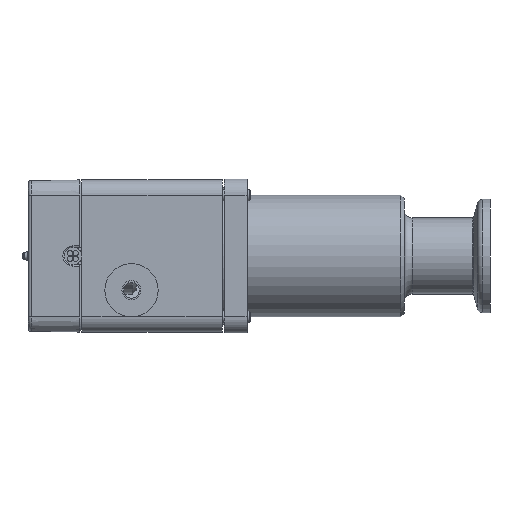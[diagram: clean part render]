
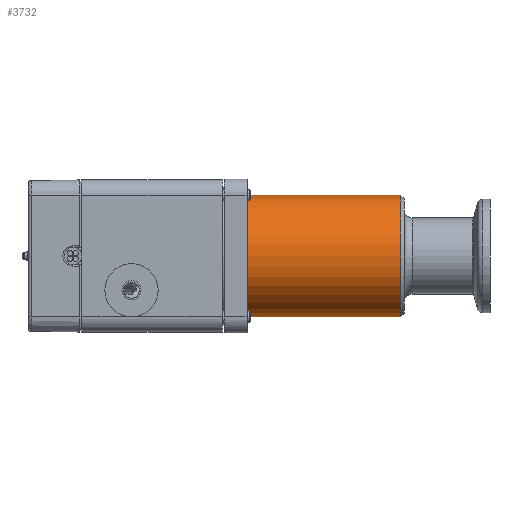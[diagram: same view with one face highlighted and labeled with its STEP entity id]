
A CAD part, left-side view. The second image highlights one B-rep face of the part: STEP entity #3732.
In plain terms, the highlighted cylindrical face has radius 16 mm (diameter 32 mm), a full revolution.
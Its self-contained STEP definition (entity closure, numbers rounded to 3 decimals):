
#3483=CYLINDRICAL_SURFACE('',#10082,16.);
#3570=B_SPLINE_CURVE_WITH_KNOTS('',3,(#13851,#13852,#13853,#13854,#13855,
#13856,#13857,#13858,#13859,#13860,#13861,#13862,#13863,#13864,#13865,#13866,
#13867,#13868),.UNSPECIFIED.,.T.,.F.,(2,2,2,2,2,2,2,2,2,2,2),(-0.125,0.,
0.125,0.25,0.375,0.5,0.625,0.75,0.875,1.,1.125),.UNSPECIFIED.);
#3732=ADVANCED_FACE('',(#4575,#4576,#4577),#3483,.T.);
#4575=FACE_BOUND('',#5041,.T.);
#4576=FACE_BOUND('',#5042,.T.);
#4577=FACE_BOUND('',#5043,.T.);
#5041=EDGE_LOOP('',(#5882));
#5042=EDGE_LOOP('',(#5883));
#5043=EDGE_LOOP('',(#5884));
#5882=ORIENTED_EDGE('',*,*,#8592,.T.);
#5883=ORIENTED_EDGE('',*,*,#8593,.T.);
#5884=ORIENTED_EDGE('',*,*,#8594,.T.);
#7801=VERTEX_POINT('',#13848);
#7802=VERTEX_POINT('',#13850);
#7803=VERTEX_POINT('',#13869);
#8592=EDGE_CURVE('',#7801,#7801,#9587,.T.);
#8593=EDGE_CURVE('',#7802,#7802,#9588,.T.);
#8594=EDGE_CURVE('',#7803,#7803,#3570,.T.);
#9587=CIRCLE('',#10080,16.);
#9588=CIRCLE('',#10081,16.);
#10080=AXIS2_PLACEMENT_3D('',#13847,#11214,#11215);
#10081=AXIS2_PLACEMENT_3D('',#13849,#11216,#11217);
#10082=AXIS2_PLACEMENT_3D('',#13870,#11218,#11219);
#11214=DIRECTION('',(1.,0.,0.));
#11215=DIRECTION('',(0.,0.,-1.));
#11216=DIRECTION('',(-1.,0.,0.));
#11217=DIRECTION('',(0.,0.,1.));
#11218=DIRECTION('',(-1.,0.,0.));
#11219=DIRECTION('',(0.,0.,1.));
#13847=CARTESIAN_POINT('',(23.5,0.,0.));
#13848=CARTESIAN_POINT('',(23.5,0.,-16.));
#13849=CARTESIAN_POINT('',(63.7,0.,0.));
#13850=CARTESIAN_POINT('',(63.7,0.,16.));
#13851=CARTESIAN_POINT('',(37.847,13.856,-8.));
#13852=CARTESIAN_POINT('',(42.153,13.856,-8.));
#13853=CARTESIAN_POINT('',(44.2,14.416,-7.111));
#13854=CARTESIAN_POINT('',(47.102,15.512,-4.215));
#13855=CARTESIAN_POINT('',(47.996,15.998,-2.147));
#13856=CARTESIAN_POINT('',(48.004,16.002,2.114));
#13857=CARTESIAN_POINT('',(47.11,15.516,4.203));
#13858=CARTESIAN_POINT('',(44.208,14.419,7.107));
#13859=CARTESIAN_POINT('',(42.142,13.86,7.994));
#13860=CARTESIAN_POINT('',(37.903,13.853,8.006));
#13861=CARTESIAN_POINT('',(35.813,14.412,7.12));
#13862=CARTESIAN_POINT('',(32.897,15.512,4.217));
#13863=CARTESIAN_POINT('',(32.005,15.998,2.138));
#13864=CARTESIAN_POINT('',(31.995,16.002,-2.102));
#13865=CARTESIAN_POINT('',(32.881,15.519,-4.195));
#13866=CARTESIAN_POINT('',(35.806,14.414,-7.12));
#13867=CARTESIAN_POINT('',(37.847,13.856,-8.));
#13868=CARTESIAN_POINT('',(42.153,13.856,-8.));
#13869=CARTESIAN_POINT('',(40.,13.856,-8.));
#13870=CARTESIAN_POINT('',(0.,0.,0.));
